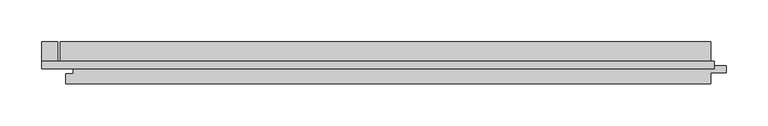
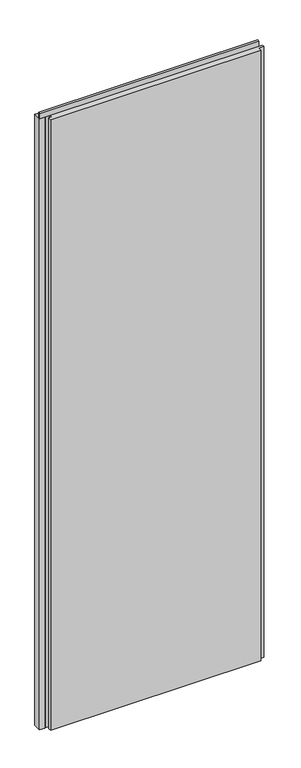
"""IFC4 building model written with IfcOpenShell, lengths in millimetres: plate geometry, Trimo_Qbiss Screen_Normal Panel-VERTICAL : HR - FB."""

from ifc_helpers import new_model, si_unit, frame, origin, place, context, project, spatial, polyline, outline, extrude, source, transform, mapped, element, save


def plate_bd979ab8(model_context):
    return source(origin(), model_context, "Body", "SweptSolid", [
        extrude(outline(polyline([(-338.0, 97.0), (-338.0, 126.0), (-319.0, 126.0), (-319.0, 97.0), (-338.0, 97.0)])), frame((0.0, 0.0, 12.5), z_axis=(0.0, 0.0, 1.0), x_axis=(1.0, 0.0, 0.0)), (0.0, 0.0, 1.0), 2375.0),
        extrude(outline(polyline([(-338.0, 93.9), (-338.0, 102.6), (467.0, 102.6), (467.0, 93.9), (-338.0, 93.9)])), frame((0.0, 0.0, 2390.5), z_axis=(0.0, 0.0, 1.0), x_axis=(1.0, 0.0, 0.0)), (0.0, 0.0, 1.0), 19.0),
        extrude(outline(polyline([(463.0, 97.0), (481.5, 97.0), (481.5, 89.0), (463.0, 89.0), (463.0, 76.0), (-309.0, 76.0), (-309.0, 88.0), (-300.5, 88.0), (-300.5, 98.0), (-316.0, 98.0), (-316.0, 126.0), (463.0, 126.0), (463.0, 97.0)])), frame((0.0, 0.0, 12.5), z_axis=(0.0, 0.0, 1.0), x_axis=(1.0, 0.0, 0.0)), (0.0, 0.0, 1.0), 2375.0),
    ])


if __name__ == "__main__":
    model = new_model("IFC4")
    model_context = context("Model", 3, world=origin())
    ifc_project = project(units=[si_unit("LENGTHUNIT", "METRE", prefix="MILLI")], contexts=[model_context])
    site = spatial("IfcSite", under=ifc_project)
    building = spatial("IfcBuilding", under=site)
    placement = place(None, origin())
    plate_shape = plate_bd979ab8(model_context)
    element("IfcPlate", 1, ObjectType="Trimo_Qbiss Screen_Normal Panel-VERTICAL : HR - FB", at=placement, inside=building, context=model_context, shape_type="MappedRepresentation", body=[
        mapped(plate_shape, transform((0.0, 0.0, 0.0), x_axis=(1.0, 0.0, 0.0), y_axis=(0.0, 1.0, 0.0), z_axis=(0.0, 0.0, 1.0))),
    ])
    save(model, "model.ifc")
